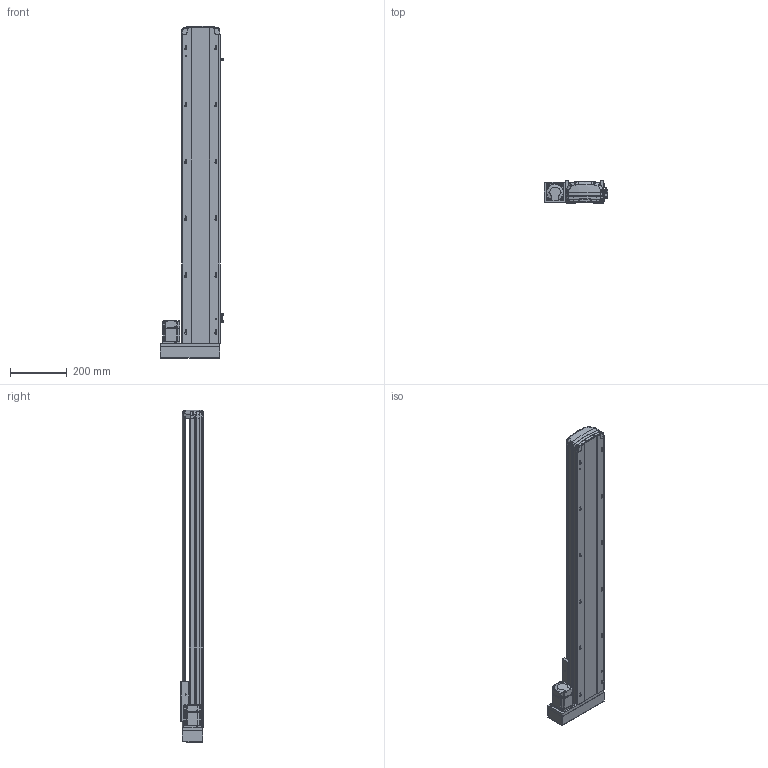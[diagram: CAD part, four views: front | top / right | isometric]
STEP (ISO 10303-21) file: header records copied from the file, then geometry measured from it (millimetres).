
FILE_DESCRIPTION (( 'STEP AP214' ), '1' );
FILE_NAME ('RTH14-XX-900-L-M20-C4.STEP', '2025-10-25T02:40:41', ( 'Microsoft' ), ( 'Microsoft' ), 'SwSTEP 2.0', 'SolidWorks 2018', '' );
FILE_SCHEMA (( 'AUTOMOTIVE_DESIGN' ));
Length unit declared in the file: millimetre
Products named in the file (10): N_RTH13-L-018 裔赽^RTH14-XX-XX-L-M20-C4; N_RTH13-L-012感应片（外置）^RTH14-XX-XX-L-M20-C4; N_RTH13-L-008-P20 萇儂啣酘蛌殏^RTH14-XX-XX-L-M20-C4; N_RTH14-R-004-SFSR16賑釱^RTH14-XX-XX-L-M20-C4; N_RTH14-M-007P奻裔^RTH14-XX-XX-L-M20-C4; N_MSMD022P1AA_200W^RTH14-XX-XX-L-M20-C4; N_RTH14-GY-001P^RTH14-XX-XX-L-M20-C4; N_OMRON EE-SX672 传感器^RTH14-XX-XX-L-M20-C4; RTH14-XX-900-L-M20-C4; N_RTH14-M-011P菁釱^RTH14-XX-XX-L-M20-C4
Assembly tree (11 placements, depth 2):
  RTH14-XX-900-L-M20-C4
    N_RTH14-M-011P菁釱^RTH14-XX-XX-L-M20-C4
    N_RTH14-M-007P奻裔^RTH14-XX-XX-L-M20-C4
    N_MSMD022P1AA_200W^RTH14-XX-XX-L-M20-C4
    N_RTH13-L-008-P20 萇儂啣酘蛌殏^RTH14-XX-XX-L-M20-C4
    N_RTH13-L-018 裔赽^RTH14-XX-XX-L-M20-C4
    N_RTH13-L-012感应片（外置）^RTH14-XX-XX-L-M20-C4
    N_OMRON EE-SX672 传感器^RTH14-XX-XX-L-M20-C4  x3
    N_RTH14-GY-001P^RTH14-XX-XX-L-M20-C4
    N_RTH14-R-004-SFSR16賑釱^RTH14-XX-XX-L-M20-C4
Bounding box: 224 x 78.03 x 1167.49 mm (x, y, z)
Volume: 5083936.5 mm3; surface area: 1174343.1 mm2
Topology: 11 solids, 11 shells, 1882 faces, 5261 edges, 3446 vertices
Faces by surface type: plane 991, cylinder 497, bspline 345, cone 45, torus 4
Entity records: 57531 total; most frequent: CARTESIAN_POINT 23131, ORIENTED_EDGE 7590, DIRECTION 6112, EDGE_CURVE 3795, VERTEX_POINT 2482, VECTOR 2168, LINE 2168, AXIS2_PLACEMENT_3D 1972
